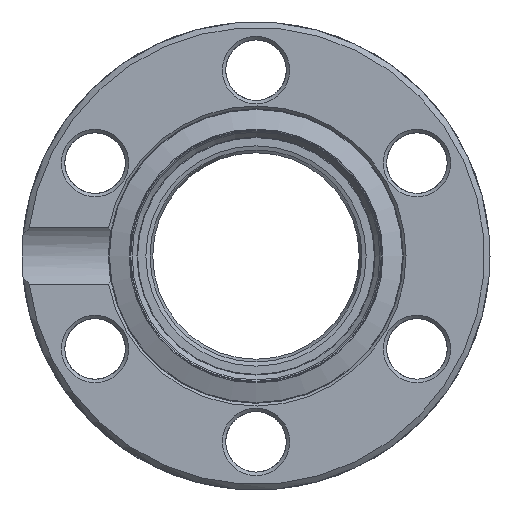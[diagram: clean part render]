
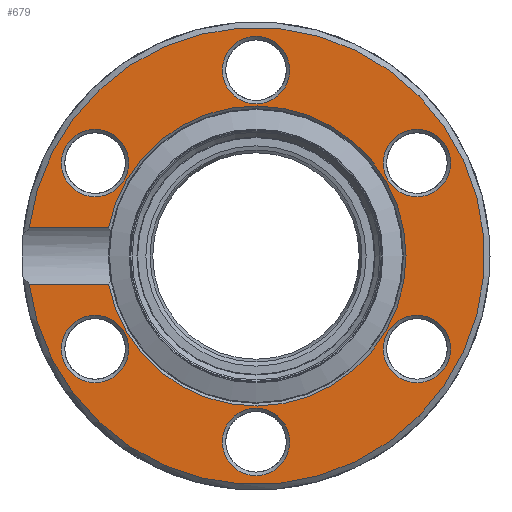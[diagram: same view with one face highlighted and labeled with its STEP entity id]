
A CAD part, left-side view. The second image highlights one B-rep face of the part: STEP entity #679.
In plain terms, the highlighted planar face has unit normal (-1, 0, 0).
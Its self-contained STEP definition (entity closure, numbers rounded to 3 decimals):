
#309=CARTESIAN_POINT('',(-1000.,10.707,2.04));
#310=VERTEX_POINT('',#309);
#329=CARTESIAN_POINT('',(-1000.,10.707,-2.04));
#330=VERTEX_POINT('',#329);
#338=CARTESIAN_POINT('',(-1000.,0.,0.));
#339=DIRECTION('',(-1.0,0.0,0.0));
#340=DIRECTION('',(0.0,-1.0,0.0));
#341=AXIS2_PLACEMENT_3D('',#338,#339,#340);
#342=CIRCLE('',#341,10.9);
#343=EDGE_CURVE('',#330,#310,#342,.T.);
#542=CARTESIAN_POINT('',(-1000.,16.474,2.04));
#543=VERTEX_POINT('',#542);
#553=CARTESIAN_POINT('',(-1000.,16.474,-2.04));
#554=VERTEX_POINT('',#553);
#555=CARTESIAN_POINT('',(-1000.,0.,0.));
#556=DIRECTION('',(1.0,0.0,0.0));
#557=DIRECTION('',(0.0,-1.0,0.0));
#558=AXIS2_PLACEMENT_3D('',#555,#556,#557);
#559=CIRCLE('',#558,16.6);
#560=EDGE_CURVE('',#543,#554,#559,.T.);
#583=CARTESIAN_POINT('',(-1000.,16.474,2.04));
#584=DIRECTION('',(0.0,-1.0,0.0));
#585=VECTOR('',#584,5.767);
#586=LINE('',#583,#585);
#587=EDGE_CURVE('',#543,#310,#586,.T.);
#593=CARTESIAN_POINT('',(-1000.,10.707,-2.04));
#594=DIRECTION('',(0.0,1.0,0.0));
#595=VECTOR('',#594,5.767);
#596=LINE('',#593,#595);
#597=EDGE_CURVE('',#330,#554,#596,.T.);
#602=CARTESIAN_POINT('',(-1000.,13.85,0.));
#603=DIRECTION('',(-1.0,0.0,0.0));
#604=DIRECTION('',(0.0,0.0,1.0));
#605=AXIS2_PLACEMENT_3D('',#602,#603,#604);
#606=PLANE('',#605);
#607=ORIENTED_EDGE('',*,*,#343,.F.);
#608=ORIENTED_EDGE('',*,*,#597,.T.);
#609=ORIENTED_EDGE('',*,*,#560,.F.);
#610=ORIENTED_EDGE('',*,*,#587,.T.);
#611=EDGE_LOOP('',(#607,#608,#609,#610));
#612=FACE_OUTER_BOUND('',#611,.T.);
#613=CARTESIAN_POINT('',(-1000.,-13.813,5.525));
#614=VERTEX_POINT('',#613);
#615=CARTESIAN_POINT('',(-1000.,-11.691,6.75));
#616=DIRECTION('',(-1.0,0.,0.));
#617=DIRECTION('',(0.,0.866,0.5));
#618=AXIS2_PLACEMENT_3D('',#615,#616,#617);
#619=CIRCLE('',#618,2.45);
#620=EDGE_CURVE('',#614,#614,#619,.T.);
#621=ORIENTED_EDGE('',*,*,#620,.F.);
#622=EDGE_LOOP('',(#621));
#623=FACE_BOUND('',#622,.T.);
#624=CARTESIAN_POINT('',(-1000.,11.691,9.2));
#625=VERTEX_POINT('',#624);
#626=CARTESIAN_POINT('',(-1000.,11.691,6.75));
#627=DIRECTION('',(-1.0,0.0,0.0));
#628=DIRECTION('',(0.0,0.0,-1.0));
#629=AXIS2_PLACEMENT_3D('',#626,#627,#628);
#630=CIRCLE('',#629,2.45);
#631=EDGE_CURVE('',#625,#625,#630,.T.);
#632=ORIENTED_EDGE('',*,*,#631,.F.);
#633=EDGE_LOOP('',(#632));
#634=FACE_BOUND('',#633,.T.);
#635=CARTESIAN_POINT('',(-1000.,-2.122,14.725));
#636=VERTEX_POINT('',#635);
#637=CARTESIAN_POINT('',(-1000.,0.,13.5));
#638=DIRECTION('',(-1.0,0.,0.));
#639=DIRECTION('',(0.,0.866,-0.5));
#640=AXIS2_PLACEMENT_3D('',#637,#638,#639);
#641=CIRCLE('',#640,2.45);
#642=EDGE_CURVE('',#636,#636,#641,.T.);
#643=ORIENTED_EDGE('',*,*,#642,.F.);
#644=EDGE_LOOP('',(#643));
#645=FACE_BOUND('',#644,.T.);
#646=CARTESIAN_POINT('',(-1000.,-11.691,-9.2));
#647=VERTEX_POINT('',#646);
#648=CARTESIAN_POINT('',(-1000.,-11.691,-6.75));
#649=DIRECTION('',(-1.0,0.0,0.0));
#650=DIRECTION('',(0.0,0.0,1.0));
#651=AXIS2_PLACEMENT_3D('',#648,#649,#650);
#652=CIRCLE('',#651,2.45);
#653=EDGE_CURVE('',#647,#647,#652,.T.);
#654=ORIENTED_EDGE('',*,*,#653,.F.);
#655=EDGE_LOOP('',(#654));
#656=FACE_BOUND('',#655,.T.);
#657=CARTESIAN_POINT('',(-1000.,13.813,-5.525));
#658=VERTEX_POINT('',#657);
#659=CARTESIAN_POINT('',(-1000.,11.691,-6.75));
#660=DIRECTION('',(-1.,0.,0.));
#661=DIRECTION('',(0.,-0.866,-0.5));
#662=AXIS2_PLACEMENT_3D('',#659,#660,#661);
#663=CIRCLE('',#662,2.45);
#664=EDGE_CURVE('',#658,#658,#663,.T.);
#665=ORIENTED_EDGE('',*,*,#664,.F.);
#666=EDGE_LOOP('',(#665));
#667=FACE_BOUND('',#666,.T.);
#668=CARTESIAN_POINT('',(-1000.,2.122,-14.725));
#669=VERTEX_POINT('',#668);
#670=CARTESIAN_POINT('',(-1000.,0.,-13.5));
#671=DIRECTION('',(-1.0,0.,0.));
#672=DIRECTION('',(0.,-0.866,0.5));
#673=AXIS2_PLACEMENT_3D('',#670,#671,#672);
#674=CIRCLE('',#673,2.45);
#675=EDGE_CURVE('',#669,#669,#674,.T.);
#676=ORIENTED_EDGE('',*,*,#675,.F.);
#677=EDGE_LOOP('',(#676));
#678=FACE_BOUND('',#677,.T.);
#679=ADVANCED_FACE('',(#612,#623,#634,#645,#656,#667,#678),#606,.T.);
